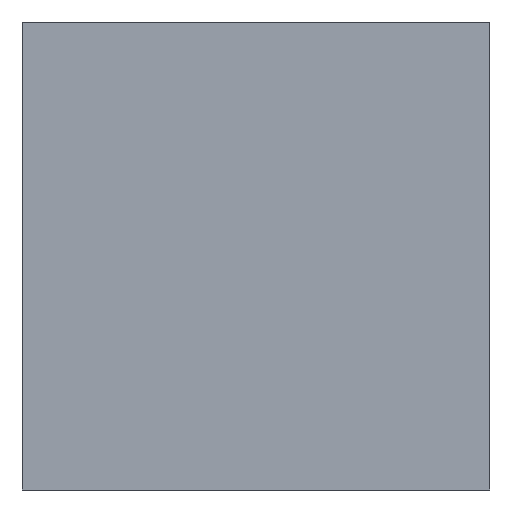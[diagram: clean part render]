
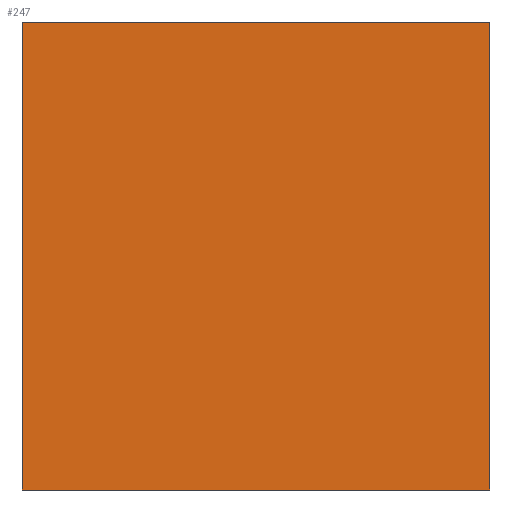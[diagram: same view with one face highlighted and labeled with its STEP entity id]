
A CAD part, left-side view. The second image highlights one B-rep face of the part: STEP entity #247.
In plain terms, the highlighted planar face has unit normal (-1, 0, 0).
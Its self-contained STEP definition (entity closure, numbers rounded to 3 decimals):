
#1 = CARTESIAN_POINT ( 'NONE',  ( -1.105, 1.45, -0.725 ) ) ;
#7 = CARTESIAN_POINT ( 'NONE',  ( -1.105, 1.45, 0.725 ) ) ;
#26 = DIRECTION ( 'NONE',  ( 1., 0., 0. ) ) ;
#39 = AXIS2_PLACEMENT_3D ( 'NONE', #320, #26, #302 ) ;
#54 = VECTOR ( 'NONE', #104, 1000. ) ;
#57 = ORIENTED_EDGE ( 'NONE', *, *, #207, .F. ) ;
#60 = FACE_OUTER_BOUND ( 'NONE', #136, .T. ) ;
#95 = PLANE ( 'NONE',  #39 ) ;
#96 = ORIENTED_EDGE ( 'NONE', *, *, #409, .F. ) ;
#100 = VECTOR ( 'NONE', #471, 1000. ) ;
#103 = VERTEX_POINT ( 'NONE', #153 ) ;
#104 = DIRECTION ( 'NONE',  ( 0., 1., 0. ) ) ;
#136 = EDGE_LOOP ( 'NONE', ( #96, #443, #57, #432 ) ) ;
#151 = DIRECTION ( 'NONE',  ( 0., -1., 0. ) ) ;
#153 = CARTESIAN_POINT ( 'NONE',  ( -1.105, 0., -0.725 ) ) ;
#194 = CARTESIAN_POINT ( 'NONE',  ( -1.105, 1.45, 0.725 ) ) ;
#207 = EDGE_CURVE ( 'NONE', #477, #318, #341, .T. ) ;
#247 = ADVANCED_FACE ( 'NONE', ( #60 ), #95, .F. ) ;
#266 = EDGE_CURVE ( 'NONE', #387, #477, #316, .T. ) ;
#282 = CARTESIAN_POINT ( 'NONE',  ( -1.105, 0., -0.725 ) ) ;
#286 = LINE ( 'NONE', #282, #54 ) ;
#289 = VECTOR ( 'NONE', #425, 1000. ) ;
#302 = DIRECTION ( 'NONE',  ( 0., 0., -1. ) ) ;
#310 = EDGE_CURVE ( 'NONE', #318, #103, #352, .T. ) ;
#316 = LINE ( 'NONE', #355, #100 ) ;
#318 = VERTEX_POINT ( 'NONE', #459 ) ;
#320 = CARTESIAN_POINT ( 'NONE',  ( -1.105, 4.071, -0.705 ) ) ;
#341 = LINE ( 'NONE', #7, #367 ) ;
#352 = LINE ( 'NONE', #433, #289 ) ;
#355 = CARTESIAN_POINT ( 'NONE',  ( -1.105, 1.45, -0.725 ) ) ;
#367 = VECTOR ( 'NONE', #151, 1000. ) ;
#387 = VERTEX_POINT ( 'NONE', #1 ) ;
#409 = EDGE_CURVE ( 'NONE', #103, #387, #286, .T. ) ;
#425 = DIRECTION ( 'NONE',  ( 0., 0., -1. ) ) ;
#432 = ORIENTED_EDGE ( 'NONE', *, *, #266, .F. ) ;
#433 = CARTESIAN_POINT ( 'NONE',  ( -1.105, 0., 0.725 ) ) ;
#443 = ORIENTED_EDGE ( 'NONE', *, *, #310, .F. ) ;
#459 = CARTESIAN_POINT ( 'NONE',  ( -1.105, 0., 0.725 ) ) ;
#471 = DIRECTION ( 'NONE',  ( 0., 0., 1. ) ) ;
#477 = VERTEX_POINT ( 'NONE', #194 ) ;
